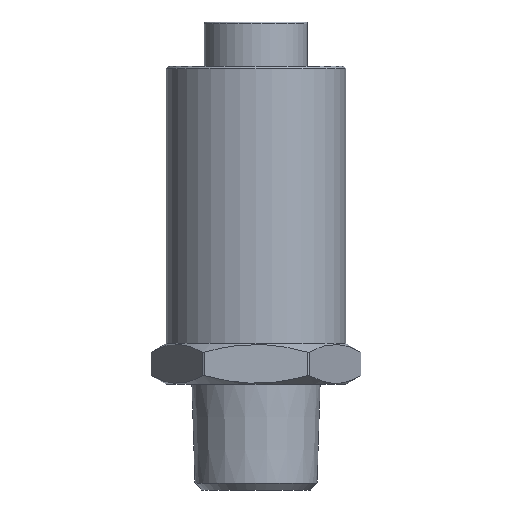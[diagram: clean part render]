
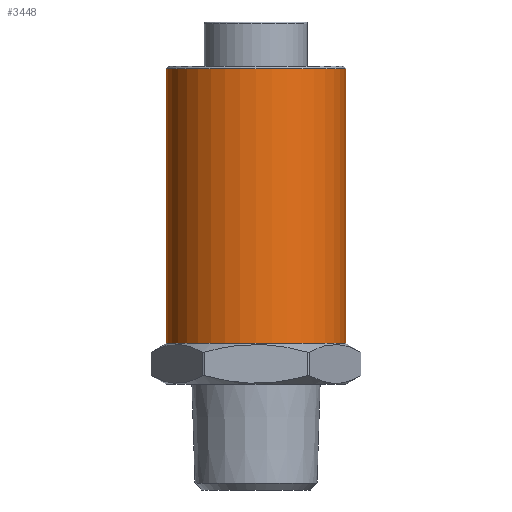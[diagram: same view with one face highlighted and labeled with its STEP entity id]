
A CAD part, front view. The second image highlights one B-rep face of the part: STEP entity #3448.
In plain terms, the highlighted cylindrical face has radius 18.7 mm (diameter 37.4 mm), a full revolution.
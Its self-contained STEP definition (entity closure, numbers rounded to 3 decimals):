
#134=FACE_BOUND('',#777,.T.);
#501=FACE_OUTER_BOUND('',#776,.T.);
#776=EDGE_LOOP('',(#2801));
#777=EDGE_LOOP('',(#2802));
#1328=CIRCLE('',#3856,18.7);
#1329=CIRCLE('',#3857,18.7);
#1623=VERTEX_POINT('',#6080);
#1624=VERTEX_POINT('',#6082);
#2039=EDGE_CURVE('',#1623,#1623,#1328,.T.);
#2040=EDGE_CURVE('',#1624,#1624,#1329,.T.);
#2801=ORIENTED_EDGE('',*,*,#2039,.F.);
#2802=ORIENTED_EDGE('',*,*,#2040,.T.);
#3057=CYLINDRICAL_SURFACE('',#3855,18.7);
#3448=ADVANCED_FACE('',(#501,#134),#3057,.T.);
#3855=AXIS2_PLACEMENT_3D('',#6079,#4748,#4749);
#3856=AXIS2_PLACEMENT_3D('',#6081,#4750,#4751);
#3857=AXIS2_PLACEMENT_3D('',#6083,#4752,#4753);
#4748=DIRECTION('center_axis',(0.,0.,1.));
#4749=DIRECTION('ref_axis',(1.,0.,0.));
#4750=DIRECTION('center_axis',(0.,0.,-1.));
#4751=DIRECTION('ref_axis',(-1.,0.,0.));
#4752=DIRECTION('center_axis',(0.,0.,-1.));
#4753=DIRECTION('ref_axis',(-1.,0.,0.));
#6079=CARTESIAN_POINT('Origin',(0.,0.,0.));
#6080=CARTESIAN_POINT('',(-18.7,0.,-63.7));
#6081=CARTESIAN_POINT('Origin',(0.,0.,-63.7));
#6082=CARTESIAN_POINT('',(-18.7,0.,-6.5));
#6083=CARTESIAN_POINT('Origin',(0.,0.,-6.5));
